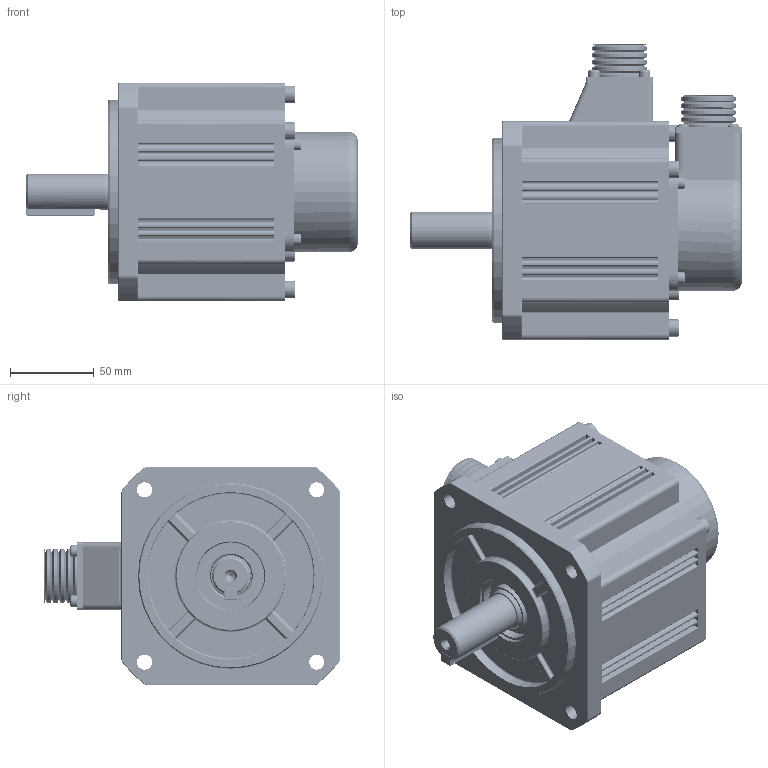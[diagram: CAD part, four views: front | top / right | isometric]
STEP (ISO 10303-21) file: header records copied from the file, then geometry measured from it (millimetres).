
FILE_DESCRIPTION((''),'2;1');
FILE_NAME('11101-01213_ASM','2024-01-23T18:53:05',('admin'),(''),'CREO PARAMETRIC BY PTC INC, 2019080','CREO PARAMETRIC BY PTC INC, 2019080','');
FILE_SCHEMA(('CONFIG_CONTROL_DESIGN'));
Products named in the file (89): 80040368_AF0; 66670023_AF0; 77840015_AF0; 77840005_AF0; 15CDZZJ_AF0_ASM; 66670023_AF1; 77840015_AF1; 77840005_AF1; 15CDZZJ_AF1_ASM; 66670023_AF2; 77840015_AF2; 77840005_AF2; 15CDZZJ_AF2_ASM; 66670023_AF3; 77840015_AF3; 77840005_AF3; 15CDZZJ_AF3_ASM; 66670023_AF4; 77840015_AF4; 77840005_AF4; 15CDZZJ_AF4_ASM; 66670023_AF5; 77840015_AF5; 77840005_AF5; 15CDZZJ_AF5_ASM; 66670023_AF6; 77840015_AF6; 77840005_AF6; 15CDZZJ_AF6_ASM; 66670023_AF7; 77840015_AF7; 77840005_AF7; 15CDZZJ_AF7_ASM; 66670023_AF8; 77840015_AF8; 77840005_AF8; 15CDZZJ_AF8_ASM; 66670023_AF9; 77840015_AF9; 77840005_AF9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
Assembly tree (91 placements, depth 4):
  11101-01213_ASM
    12112-00990_AF0_ASM
      80040368_AF0
      15CDZZJ_AF0_ASM
        66670023_AF0
        77840015_AF0
        77840005_AF0
      15CDZZJ_AF1_ASM
        66670023_AF1
        77840015_AF1
        77840005_AF1
      15CDZZJ_AF2_ASM
        66670023_AF2
        77840015_AF2
        77840005_AF2
      15CDZZJ_AF3_ASM
        66670023_AF3
        77840015_AF3
        77840005_AF3
      15CDZZJ_AF4_ASM
        66670023_AF4
        77840015_AF4
        77840005_AF4
      15CDZZJ_AF5_ASM
        66670023_AF5
        77840015_AF5
        77840005_AF5
      15CDZZJ_AF6_ASM
        66670023_AF6
        77840015_AF6
        77840005_AF6
      15CDZZJ_AF7_ASM
        66670023_AF7
        77840015_AF7
        77840005_AF7
      15CDZZJ_AF8_ASM
        66670023_AF8
        77840015_AF8
        77840005_AF8
      15CDZZJ_AF9_ASM
        66670023_AF9
        77840015_AF9
        77840005_AF9
      15CDZZJ_AF10_ASM
        66670023_AF10
        77840015_AF10
        77840005_AF10
      15CDZZJ_AF11_ASM
        66670023_AF11
        77840015_AF11
        77840005_AF11
      PCB_AF0
    12111-00727_AF0_ASM
      80100288_AF0
      6004-ZZ_AF0
      83040137_AF0
      66660004_AF0
      77700021_AF0
      77700021_AF1
      77700021_AF2
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Bounding box: 197.7 x 176 x 130 mm (x, y, z)
Volume: 453050.8 mm3; surface area: 254927.5 mm2
Topology: 26 solids, 45 shells, 3364 faces, 8938 edges, 5747 vertices
Faces by surface type: plane 1501, cylinder 1259, bspline 239, torus 184, cone 139, sphere 42
Entity records: 134060 total; most frequent: CARTESIAN_POINT 57588, ORIENTED_EDGE 15980, DIRECTION 15072, EDGE_CURVE 8028, VERTEX_POINT 5186, VECTOR 5032, LINE 5032, AXIS2_PLACEMENT_3D 5020
